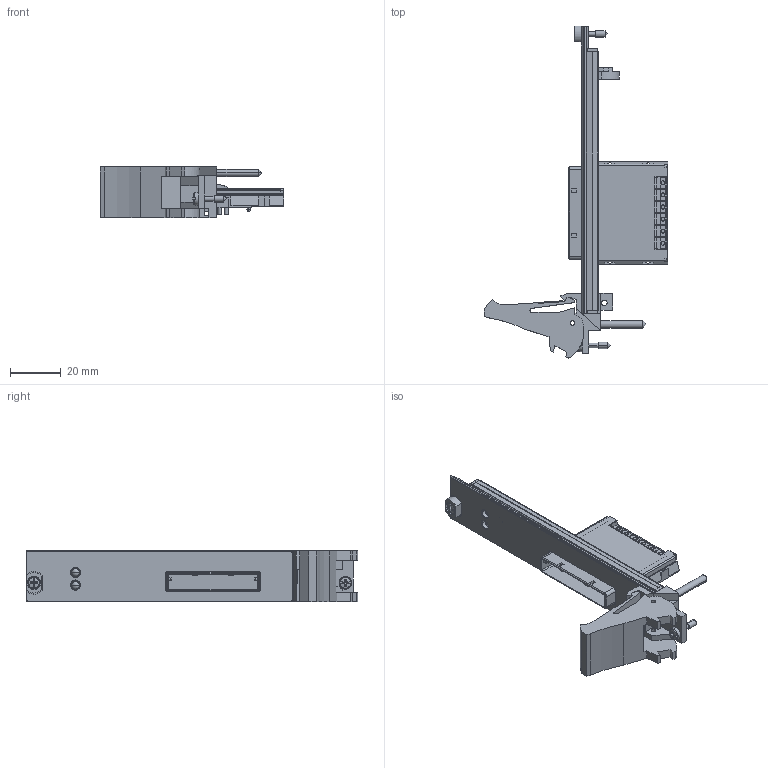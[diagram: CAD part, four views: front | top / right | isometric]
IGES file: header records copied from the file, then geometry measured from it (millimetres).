
Start section:  PTC IGES file: cu_pxie-8383mc.igs
Global section: file name: cu_pxie-8383mc.igs; native system: Pro/ENGINEER by Parametric Technology Corporation; preprocessor: 2011490; author: sboose; organization: Unknown; date: 20130826.132336; units: inch
Bounding box: 72.02 x 130.5 x 20.31 mm (x, y, z)
Surface area: 25602.2 mm2 (no closed solid volume)
Topology: 0 solids, 0 shells, 612 faces, 3366 edges, 3358 vertices
Faces by surface type: bspline 405, revolution 207
